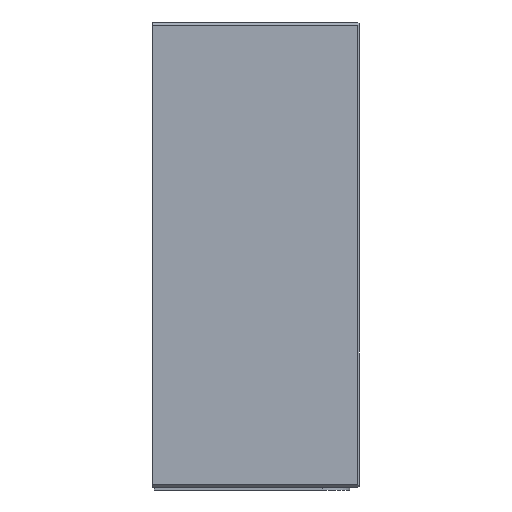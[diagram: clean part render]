
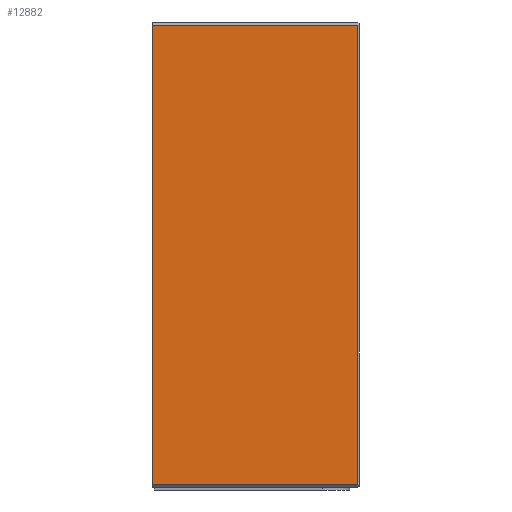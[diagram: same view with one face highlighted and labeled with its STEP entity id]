
A CAD part, left-side view. The second image highlights one B-rep face of the part: STEP entity #12882.
In plain terms, the highlighted planar face has unit normal (-1, 0, 0).
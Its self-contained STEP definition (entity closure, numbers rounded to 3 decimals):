
#1948=ORIENTED_EDGE('',*,*,#5653,.T.);
#1949=ORIENTED_EDGE('',*,*,#5472,.F.);
#1950=ORIENTED_EDGE('',*,*,#5654,.T.);
#1951=ORIENTED_EDGE('',*,*,#5655,.T.);
#5472=EDGE_CURVE('',#7376,#7377,#8489,.F.);
#5653=EDGE_CURVE('',#7543,#7377,#8533,.T.);
#5654=EDGE_CURVE('',#7376,#7544,#8534,.T.);
#5655=EDGE_CURVE('',#7544,#7543,#8535,.T.);
#7376=VERTEX_POINT('',#20988);
#7377=VERTEX_POINT('',#20990);
#7543=VERTEX_POINT('',#21895);
#7544=VERTEX_POINT('',#21897);
#8489=LINE('',#20989,#9510);
#8533=LINE('',#21894,#9554);
#8534=LINE('',#21896,#9555);
#8535=LINE('',#21898,#9556);
#9510=VECTOR('',#14982,1000.);
#9554=VECTOR('',#15076,1000.);
#9555=VECTOR('',#15077,1000.);
#9556=VECTOR('',#15078,1000.);
#10619=EDGE_LOOP('',(#1948,#1949,#1950,#1951));
#11541=FACE_BOUND('',#10619,.T.);
#12336=PLANE('',#13818);
#12882=ADVANCED_FACE('',(#11541),#12336,.F.);
#13818=AXIS2_PLACEMENT_3D('',#21893,#15074,#15075);
#14982=DIRECTION('',(0.,0.,-1.));
#15074=DIRECTION('',(1.,0.,0.));
#15075=DIRECTION('',(0.,1.,0.));
#15076=DIRECTION('',(0.,1.,0.));
#15077=DIRECTION('',(0.,-1.,0.));
#15078=DIRECTION('',(0.,0.,1.));
#20988=CARTESIAN_POINT('',(-375.,-58.,10.));
#20989=CARTESIAN_POINT('',(-375.,-58.,849.));
#20990=CARTESIAN_POINT('',(-375.,-58.,843.));
#21893=CARTESIAN_POINT('',(-375.,-58.,849.));
#21894=CARTESIAN_POINT('',(-375.,-58.,843.));
#21895=CARTESIAN_POINT('',(-375.,-430.,843.));
#21896=CARTESIAN_POINT('',(-375.,-58.,10.));
#21897=CARTESIAN_POINT('',(-375.,-430.,10.));
#21898=CARTESIAN_POINT('',(-375.,-430.,849.));
